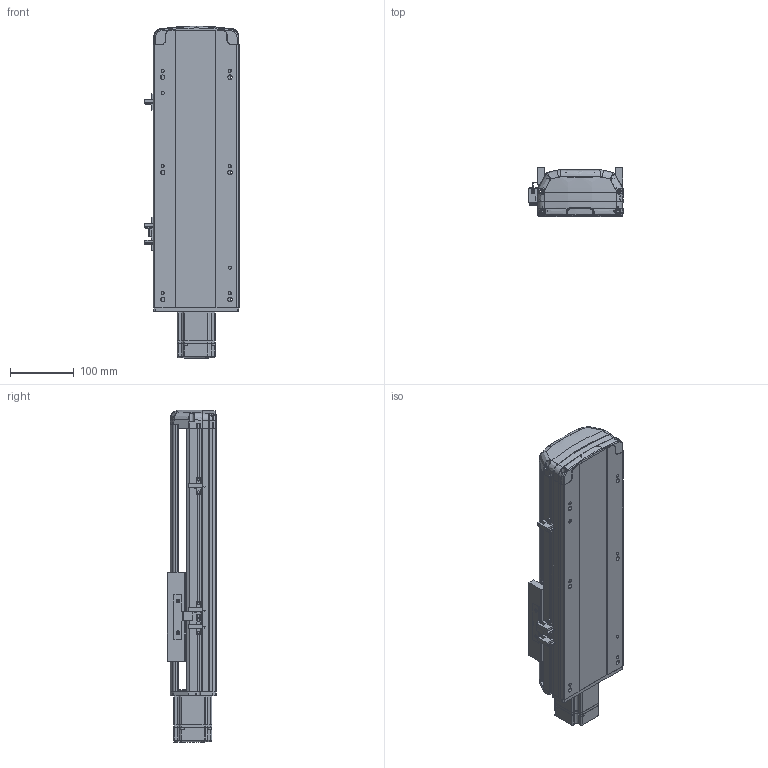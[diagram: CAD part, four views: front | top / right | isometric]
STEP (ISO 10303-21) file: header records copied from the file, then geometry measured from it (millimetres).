
FILE_DESCRIPTION (( 'STEP AP214' ), '1' );
FILE_NAME ('RTH14-XX-200-E-M20-C4.STEP', '2025-10-24T09:05:15', ( 'Microsoft' ), ( 'Microsoft' ), 'SwSTEP 2.0', 'SolidWorks 2018', '' );
FILE_SCHEMA (( 'AUTOMOTIVE_DESIGN' ));
Length unit declared in the file: millimetre
Products named in the file (9): N_OMRON EE-SX672 传感器^RTH14-XX-XX-E-M20-C4; N_MSMD022P1AA_200W^RTH14-XX-XX-E-M20-C4; N_RTH14-E-007P奻裔^RTH14-XX-XX-E-M20-C4; N_RTH14-GY-001P^RTH14-XX-XX-E-M20-C4; N_RTH14-R-004-SFSR16賑釱^RTH14-XX-XX-E-M20-C4; N_RTH13-E-008萇儂耜猾裔^RTH14-XX-XX-E-M20-C4; N_RTH13-L-012感应片（外置）^RTH14-XX-XX-E-M20-C4; RTH14-XX-200-E-M20-C4; N_RTH14-E-011P菁釱^RTH14-XX-XX-E-M20-C4
Assembly tree (10 placements, depth 2):
  RTH14-XX-200-E-M20-C4
    N_RTH14-E-011P菁釱^RTH14-XX-XX-E-M20-C4
    N_RTH14-E-007P奻裔^RTH14-XX-XX-E-M20-C4
    N_MSMD022P1AA_200W^RTH14-XX-XX-E-M20-C4
    N_RTH13-L-012感应片（外置）^RTH14-XX-XX-E-M20-C4
    N_OMRON EE-SX672 传感器^RTH14-XX-XX-E-M20-C4  x3
    N_RTH13-E-008萇儂耜猾裔^RTH14-XX-XX-E-M20-C4
    N_RTH14-R-004-SFSR16賑釱^RTH14-XX-XX-E-M20-C4
    N_RTH14-GY-001P^RTH14-XX-XX-E-M20-C4
Bounding box: 148.5 x 78.03 x 522.49 mm (x, y, z)
Volume: 2359059.9 mm3; surface area: 516309.1 mm2
Topology: 10 solids, 10 shells, 1839 faces, 5170 edges, 3396 vertices
Faces by surface type: plane 973, cylinder 476, bspline 341, cone 45, torus 4
Entity records: 56092 total; most frequent: CARTESIAN_POINT 22584, ORIENTED_EDGE 7408, DIRECTION 5923, EDGE_CURVE 3704, VERTEX_POINT 2432, LINE 2139, VECTOR 2139, AXIS2_PLACEMENT_3D 1892
